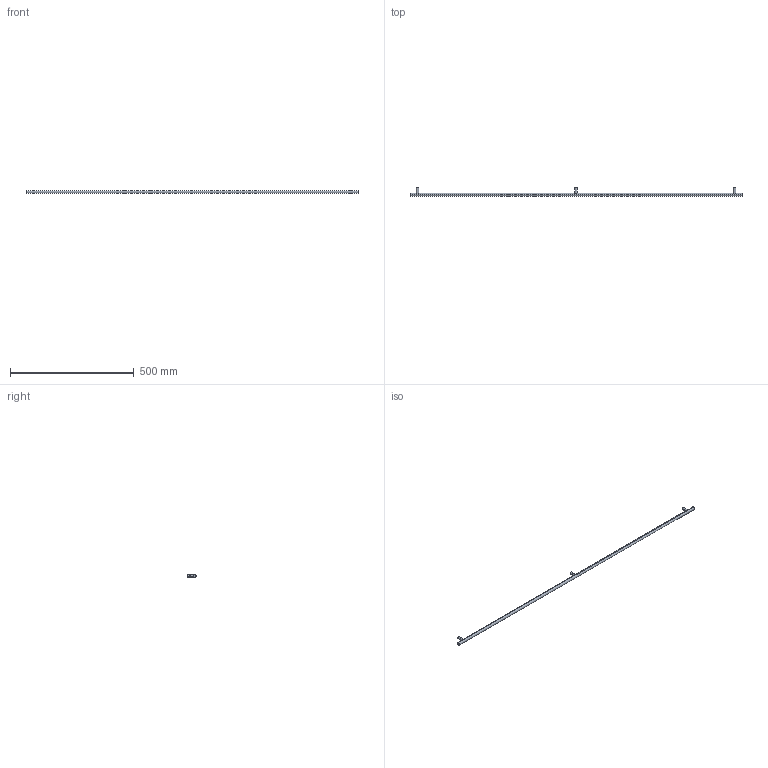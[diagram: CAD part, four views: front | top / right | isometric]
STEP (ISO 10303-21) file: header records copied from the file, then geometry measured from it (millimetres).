
FILE_DESCRIPTION( ( '' ), '1' );
FILE_NAME( 'D:/1.AUTOCAD EXPORT/Group 10/sheet_10_1/9071042.stp', '2013-10-21T09:58:38', ( '' ), ( '' ), ' ', ' ', ' ' );
FILE_SCHEMA( ( 'automotive_design' ) );
Length unit declared in the file: millimetre
Products named in the file (1): 1
Bounding box: 1340 x 35 x 12 mm (x, y, z)
Volume: 156654.1 mm3; surface area: 53451.1 mm2
Topology: 1 solids, 1 shells, 22 faces, 45 edges, 31 vertices
Faces by surface type: cylinder 14, plane 8
Entity records: 1358 total; most frequent: CARTESIAN_POINT 300, DIRECTION 104, STYLED_ITEM 99, PRESENTATION_STYLE_ASSIGNMENT 99, COLOUR_RGB 99, ORIENTED_EDGE 90, EDGE_CURVE 45, AXIS2_PLACEMENT_3D 45
